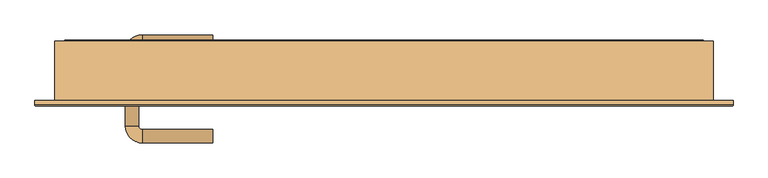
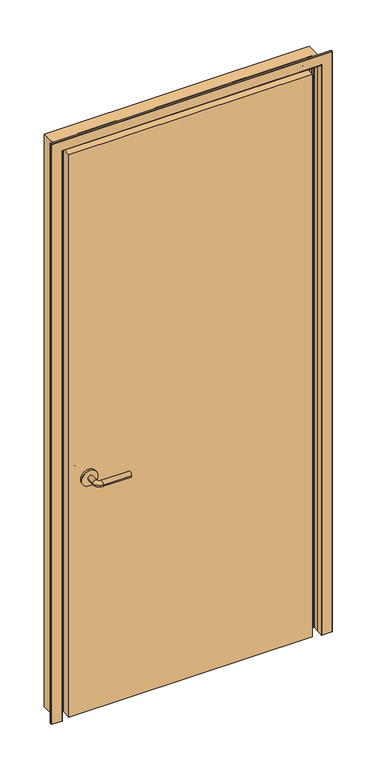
"""IFC4 building model written with IfcOpenShell, lengths in millimetres: door geometry, DRZWI DO ZESTAWIENIA : Dw_biura_90x220cm."""

from ifc_helpers import new_model, si_unit, point, frame, frame_2d, origin, origin_with_axes, place, context, project, spatial, polyline, circle_curve, ellipse_curve, trimmed, segment, composite_curve, outline, extrude, source, transform, mapped, element, save
from ifc_brep_helpers import plane_surface, cylinder_surface, revolved_surface, advanced_brep


def door_93136e83(model_context):
    return source(origin(), model_context, "Body", "SolidModel", [
        advanced_brep(
        [(-384.990625, -28.825, 914.4), (-364.990625, -28.825, 914.4), (-384.990625, 1.175, 914.4), (-364.990625, 1.175, 914.4), (-359.990625, 6.175, 914.4), (-359.990625, 26.175, 914.4), (-254.990625, 26.175, 914.4), (-254.990625, 6.175, 914.4)],
        [
            (0, 1, circle_curve(frame((-374.990625, -28.825, 914.4), z_axis=(0.0, -1.0, 0.0), x_axis=(1.0, 0.0, 0.0)), 10.0)),
            (1, 0, circle_curve(frame((-374.990625, -28.825, 914.4), z_axis=(0.0, -1.0, 0.0), x_axis=(1.0, 0.0, 0.0)), 10.0)),
            (0, 2),
            (2, 3, circle_curve(frame((-374.990625, 1.175, 914.4), z_axis=(0.0, -1.0, 0.0), x_axis=(1.0, 0.0, 0.0)), 10.0)),
            (3, 1),
            (3, 2, circle_curve(frame((-374.990625, 1.175, 914.4), z_axis=(0.0, -1.0, 0.0), x_axis=(1.0, 0.0, 0.0)), 10.0)),
            (4, 3, circle_curve(frame((-359.990625, 1.175, 914.4), z_axis=(0.0, 0.0, 1.0), x_axis=(-1.0, 0.0, 0.0)), 5.0)),
            (2, 5, circle_curve(frame((-359.990625, 1.175, 914.4), z_axis=(0.0, 0.0, -1.0), x_axis=(-1.0, 0.0, 0.0)), 25.0)),
            (5, 4, circle_curve(frame((-359.990625, 16.175, 914.4), z_axis=(-1.0, 0.0, 0.0), x_axis=(0.0, -1.0, 0.0)), 10.0)),
            (4, 5, circle_curve(frame((-359.990625, 16.175, 914.4), z_axis=(-1.0, 0.0, 0.0), x_axis=(0.0, -1.0, 0.0)), 10.0)),
            (6, 7, circle_curve(frame((-254.990625, 16.175, 914.4), z_axis=(1.0, 0.0, 0.0), x_axis=(0.0, -1.0, 0.0)), 10.0)),
            (7, 6, circle_curve(frame((-254.990625, 16.175, 914.4), z_axis=(1.0, 0.0, 0.0), x_axis=(0.0, -1.0, 0.0)), 10.0)),
            (5, 6),
            (7, 4),
        ],
        [
            plane_surface(frame((-374.990625, -28.825, 914.4), z_axis=(0.0, -1.0, 0.0), x_axis=(0.0, 0.0, 1.0))),
            cylinder_surface(frame((-374.990625, -28.825, 914.4), z_axis=(0.0, -1.0, 0.0), x_axis=(1.0, 0.0, 0.0)), 10.0),
            revolved_surface(trimmed(ellipse_curve(frame((-374.990625, 1.175, 914.4), z_axis=(0.0, -1.0, 0.0), x_axis=(1.0, 0.0, 0.0)), 10.0, 10.0), [point((-384.990625, 1.175, 914.4))], [point((-364.990625, 1.175, 914.4))], True, "CARTESIAN"), (-359.990625, 1.175, 914.4), (0.0, 0.0, -1.0)),
            revolved_surface(trimmed(ellipse_curve(frame((-374.990625, 1.175, 914.4), z_axis=(0.0, -1.0, 0.0), x_axis=(1.0, 0.0, 0.0)), 10.0, 10.0), [point((-364.990625, 1.175, 914.4))], [point((-384.990625, 1.175, 914.4))], True, "CARTESIAN"), (-359.990625, 1.175, 914.4), (0.0, 0.0, -1.0)),
            plane_surface(frame((-254.990625, 16.175, 914.4), z_axis=(1.0, 0.0, 0.0), x_axis=(0.0, 0.0, 1.0))),
            cylinder_surface(frame((-359.990625, 16.175, 914.4), z_axis=(-1.0, 0.0, 0.0), x_axis=(0.0, -1.0, 0.0)), 10.0),
        ],
        [
            (0, [[1, 2]]),
            (1, [[-1, 3, 4, 5]]),
            (1, [[-2, -5, 6, -3]]),
            (2, [[7, -4, 8, 9]]),
            (3, [[-8, -6, -7, 10]]),
            (4, [[11, 12]]),
            (5, [[-9, 13, -12, 14]]),
            (5, [[-10, -14, -11, -13]]),
        ],
    ),
        extrude(outline(composite_curve([segment(trimmed(circle_curve(frame_2d((914.4, -377.490625)), 30.0), [point((914.4, -407.490625))], [point((914.4, -347.490625))], False, "CARTESIAN"), True, "CONTINUOUS"), segment(trimmed(circle_curve(frame_2d((914.4, -377.490625)), 30.0), [point((914.4, -347.490625))], [point((914.4, -407.490625))], False, "CARTESIAN"), True, "CONTINUOUS")], self_intersect=False)), frame((0.0, -36.825, 0.0), z_axis=(0.0, 1.0, 0.0), x_axis=(0.0, 0.0, 1.0)), (0.0, 0.0, 1.0), 8.0),
        advanced_brep(
        [(-384.990625, -79.825, 914.4), (-364.990625, -79.825, 914.4), (-364.990625, -109.825, 914.4), (-384.990625, -109.825, 914.4), (-359.990625, -114.825, 914.4), (-359.990625, -134.825, 914.4), (-254.990625, -134.825, 914.4), (-254.990625, -114.825, 914.4)],
        [
            (0, 1, circle_curve(frame((-374.990625, -79.825, 914.4), z_axis=(0.0, 1.0, 0.0), x_axis=(1.0, 0.0, 0.0)), 10.0)),
            (1, 0, circle_curve(frame((-374.990625, -79.825, 914.4), z_axis=(0.0, 1.0, 0.0), x_axis=(1.0, 0.0, 0.0)), 10.0)),
            (1, 2),
            (2, 3, circle_curve(frame((-374.990625, -109.825, 914.4), z_axis=(0.0, 1.0, 0.0), x_axis=(1.0, 0.0, 0.0)), 10.0)),
            (3, 0),
            (3, 2, circle_curve(frame((-374.990625, -109.825, 914.4), z_axis=(0.0, 1.0, 0.0), x_axis=(1.0, 0.0, 0.0)), 10.0)),
            (4, 5, circle_curve(frame((-359.990625, -124.825, 914.4), z_axis=(-1.0, 0.0, 0.0), x_axis=(0.0, 1.0, 0.0)), 10.0)),
            (5, 3, circle_curve(frame((-359.990625, -109.825, 914.4), z_axis=(0.0, 0.0, -1.0), x_axis=(-1.0, 0.0, 0.0)), 25.0)),
            (2, 4, circle_curve(frame((-359.990625, -109.825, 914.4), z_axis=(0.0, 0.0, 1.0), x_axis=(-1.0, 0.0, 0.0)), 5.0)),
            (5, 4, circle_curve(frame((-359.990625, -124.825, 914.4), z_axis=(-1.0, 0.0, 0.0), x_axis=(0.0, 1.0, 0.0)), 10.0)),
            (6, 7, circle_curve(frame((-254.990625, -124.825, 914.4), z_axis=(1.0, 0.0, 0.0), x_axis=(0.0, 1.0, 0.0)), 10.0)),
            (7, 6, circle_curve(frame((-254.990625, -124.825, 914.4), z_axis=(1.0, 0.0, 0.0), x_axis=(0.0, 1.0, 0.0)), 10.0)),
            (4, 7),
            (6, 5),
        ],
        [
            plane_surface(frame((-374.990625, -79.825, 914.4), z_axis=(0.0, 1.0, 0.0), x_axis=(0.0, 0.0, 1.0))),
            cylinder_surface(frame((-374.990625, -79.825, 914.4), z_axis=(0.0, 1.0, 0.0), x_axis=(1.0, 0.0, 0.0)), 10.0),
            revolved_surface(trimmed(ellipse_curve(frame((-374.990625, -109.825, 914.4), z_axis=(0.0, -1.0, 0.0), x_axis=(1.0, 0.0, 0.0)), 10.0, 10.0), [point((-384.990625, -109.825, 914.4))], [point((-364.990625, -109.825, 914.4))], True, "CARTESIAN"), (-359.990625, -109.825, 914.4), (0.0, 0.0, -1.0)),
            revolved_surface(trimmed(ellipse_curve(frame((-374.990625, -109.825, 914.4), z_axis=(0.0, -1.0, 0.0), x_axis=(1.0, 0.0, 0.0)), 10.0, 10.0), [point((-364.990625, -109.825, 914.4))], [point((-384.990625, -109.825, 914.4))], True, "CARTESIAN"), (-359.990625, -109.825, 914.4), (0.0, 0.0, -1.0)),
            plane_surface(frame((-254.990625, -124.825, 914.4), z_axis=(1.0, 0.0, 0.0), x_axis=(0.0, 0.0, 1.0))),
            cylinder_surface(frame((-359.990625, -124.825, 914.4), z_axis=(-1.0, 0.0, 0.0), x_axis=(0.0, 1.0, 0.0)), 10.0),
        ],
        [
            (0, [[1, 2]]),
            (1, [[3, 4, 5, -2]]),
            (1, [[-5, 6, -3, -1]]),
            (2, [[7, 8, -4, 9]]),
            (3, [[10, -9, -6, -8]]),
            (4, [[11, 12]]),
            (5, [[13, -11, 14, -7]]),
            (5, [[-14, -12, -13, -10]]),
        ],
    ),
        extrude(outline(composite_curve([segment(trimmed(circle_curve(frame_2d((914.4, -377.490625)), 30.0), [point((914.4, -407.490625))], [point((914.4, -347.490625))], False, "CARTESIAN"), True, "CONTINUOUS"), segment(trimmed(circle_curve(frame_2d((914.4, -377.490625)), 30.0), [point((914.4, -347.490625))], [point((914.4, -407.490625))], False, "CARTESIAN"), True, "CONTINUOUS")], self_intersect=False)), frame((0.0, -79.825, 0.0), z_axis=(0.0, 1.0, 0.0), x_axis=(0.0, 0.0, 1.0)), (0.0, 0.0, 1.0), 8.0),
        extrude(outline(polyline([(450.0, -36.825), (450.0, -71.825), (-450.0, -71.825), (-450.0, -36.825), (450.0, -36.825)])), origin_with_axes(), (0.0, 0.0, 1.0), 2200.0),
        advanced_brep(
        [(451.75, 18.4249986, 0.0), (473.75, 18.4249986, 0.0), (475.5, 16.6749986, 0.0), (490.25, 16.6749986, 0.0), (490.25, -71.825, 0.0), (519.5, -71.825, 0.0), (519.5, -78.3250014, 0.0), (517.75, -80.0750014, 0.0), (480.75, -80.0750014, 0.0), (479.0, -78.3250014, 0.0), (479.0, -55.6240395, 0.0), (481.0, -52.1599379, 0.0), (481.0, -30.4900649, 0.0), (479.0, -27.0259633, 0.0), (479.0, -19.8250014, 0.0), (477.25, -18.0750014, 0.0), (469.75, -18.0750014, 0.0), (468.0, -16.3250014, 0.0), (468.0, -8.8250014, 0.0), (466.25, -7.0750014, 0.0), (453.25, -7.0750014, 0.0), (451.5, -8.8250014, 0.0), (451.5, -17.3250014, 0.0), (450.0, -17.3250014, 0.0), (450.0, 16.6749986, 0.0), (450.0, 16.6749986, 2200.0), (451.75, 18.4249986, 2201.75), (450.0, -17.3250014, 2200.0), (451.5, -17.3250014, 2201.5), (451.5, -8.8250014, 2201.5), (453.25, -7.0750014, 2203.25), (466.25, -7.0750014, 2216.25), (-466.25, -7.0750014, 2216.25), (-466.25, -7.0750014, 0.0), (-453.25, -7.0750014, 0.0), (-453.25, -7.0750014, 2203.25), (468.0, -8.8250014, 2218.0), (468.0, -16.3250014, 2218.0), (469.75, -18.0750014, 2219.75), (477.25, -18.0750014, 2227.25), (-477.25, -18.0750014, 2227.25), (-477.25, -18.0750014, 0.0), (-469.75, -18.0750014, 0.0), (-469.75, -18.0750014, 2219.75), (479.0, -19.8250014, 2229.0), (479.0, -27.0259633, 2229.0), (481.0, -30.4900649, 2231.0), (481.0, -52.1599379, 2231.0), (479.0, -55.6240395, 2229.0), (479.0, -78.3250014, 2229.0), (480.75, -80.0750014, 2230.75), (517.75, -80.0750014, 2267.75), (-517.75, -80.0750014, 2267.75), (-517.75, -80.0750014, 0.0), (-480.75, -80.0750014, 0.0), (-480.75, -80.0750014, 2230.75), (519.5, -78.3250014, 2269.5), (519.5, -71.825, 2269.5), (490.25, -71.825, 2240.25), (-490.25, -71.825, 2240.25), (-490.25, -71.825, 0.0), (-519.5, -71.825, 0.0), (-519.5, -71.825, 2269.5), (490.25, 16.6749986, 2240.25), (475.5, 16.6749986, 2225.5), (-475.5, 16.6749986, 2225.5), (-475.5, 16.6749986, 0.0), (-490.25, 16.6749986, 0.0), (-490.25, 16.6749986, 2240.25), (473.75, 18.4249986, 2223.75), (-451.75, 18.4249986, 2201.75), (-451.75, 18.4249986, 0.0), (-473.75, 18.4249986, 0.0), (-473.75, 18.4249986, 2223.75), (-451.5, -8.8250014, 0.0), (-451.5, -8.8250014, 2201.5), (-450.0, 16.6749986, 0.0), (-450.0, -17.3250014, 0.0), (-451.5, -17.3250014, 0.0), (-468.0, -8.8250014, 0.0), (-468.0, -16.3250014, 0.0), (-479.0, -19.8250014, 0.0), (-479.0, -27.0259633, 0.0), (-481.0, -30.4900649, 0.0), (-481.0, -52.1599379, 0.0), (-479.0, -55.6240395, 0.0), (-479.0, -78.3250014, 0.0), (-519.5, -78.3250014, 0.0), (-468.0, -8.8250014, 2218.0), (-468.0, -16.3250014, 2218.0), (-479.0, -19.8250014, 2229.0), (-479.0, -78.3250014, 2229.0), (-519.5, -78.3250014, 2269.5), (-450.0, 16.6749986, 2200.0), (-479.0, -55.6240395, 2229.0), (-481.0, -52.1599379, 2231.0), (-481.0, -30.4900649, 2231.0), (-479.0, -27.0259633, 2229.0), (-451.5, -17.3250014, 2201.5), (-450.0, -17.3250014, 2200.0)],
        [
            (0, 1),
            (1, 2, circle_curve(frame((473.75, 16.6749986, 0.0), z_axis=(0.0, 0.0, -1.0), x_axis=(1.0, 2.5985620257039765e-12, 0.0)), 1.75)),
            (2, 3),
            (3, 4),
            (4, 5),
            (5, 6),
            (6, 7, circle_curve(frame((517.75, -78.3250014, 0.0), z_axis=(0.0, 0.0, -1.0), x_axis=(0.0, -1.0, 0.0)), 1.75)),
            (7, 8),
            (8, 9, circle_curve(frame((480.75, -78.3250014, 0.0), z_axis=(0.0, 0.0, -1.0), x_axis=(-1.0, -1.2992838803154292e-12, 0.0)), 1.75)),
            (9, 10),
            (10, 11),
            (11, 12),
            (12, 13),
            (13, 14),
            (14, 15, circle_curve(frame((477.25, -19.8250014, 0.0), z_axis=(0.0, 0.0, 1.0), x_axis=(0.0, 1.0, 0.0)), 1.75)),
            (15, 16),
            (16, 17, circle_curve(frame((469.75, -16.3250014, 0.0), z_axis=(0.0, 0.0, -1.0), x_axis=(-1.0, -1.2992838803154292e-12, 0.0)), 1.75)),
            (17, 18),
            (18, 19, circle_curve(frame((466.25, -8.8250014, 0.0), z_axis=(0.0, 0.0, 1.0), x_axis=(0.0, 1.0, 0.0)), 1.75)),
            (19, 20),
            (20, 21, circle_curve(frame((453.25, -8.8250014, 0.0), z_axis=(0.0, 0.0, 1.0), x_axis=(-1.0, -1.2992838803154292e-12, 0.0)), 1.75)),
            (21, 22),
            (22, 23, circle_curve(frame((450.75, -17.3250014, 0.0), z_axis=(0.0, 0.0, -1.0), x_axis=(-1.0, -2.4253197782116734e-11, 0.0)), 0.75)),
            (23, 24),
            (24, 0, circle_curve(frame((451.75, 16.6749986, 0.0), z_axis=(0.0, 0.0, -1.0), x_axis=(-2.598562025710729e-12, 1.0, 0.0)), 1.75)),
            (24, 25),
            (25, 26, ellipse_curve(frame((451.75, 16.6749986, 2201.75), z_axis=(0.7071067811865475, 0.0, -0.7071067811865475), x_axis=(-0.7071067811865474, 0.0, -0.7071067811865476)), 2.4748737, 1.75)),
            (26, 0),
            (23, 27),
            (27, 25),
            (22, 28),
            (28, 27, ellipse_curve(frame((450.75, -17.3250014, 2200.75), z_axis=(0.7071067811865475, 0.0, -0.7071067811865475), x_axis=(-0.7071067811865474, 0.0, -0.7071067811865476)), 1.0606602, 0.75)),
            (21, 29),
            (29, 28),
            (20, 30),
            (30, 29, ellipse_curve(frame((453.25, -8.8250014, 2203.25), z_axis=(-0.7071067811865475, 0.0, 0.7071067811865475), x_axis=(0.7071067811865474, 0.0, 0.7071067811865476)), 2.4748737, 1.75)),
            (19, 31),
            (31, 32),
            (32, 33),
            (33, 34),
            (34, 35),
            (35, 30),
            (18, 36),
            (36, 31, ellipse_curve(frame((466.25, -8.8250014, 2216.25), z_axis=(-0.7071067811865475, 0.0, 0.7071067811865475), x_axis=(0.7071067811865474, 0.0, 0.7071067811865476)), 2.4748737, 1.75)),
            (17, 37),
            (37, 36),
            (16, 38),
            (38, 37, ellipse_curve(frame((469.75, -16.3250014, 2219.75), z_axis=(0.7071067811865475, 0.0, -0.7071067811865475), x_axis=(-0.7071067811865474, 0.0, -0.7071067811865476)), 2.4748737, 1.75)),
            (15, 39),
            (39, 40),
            (40, 41),
            (41, 42),
            (42, 43),
            (43, 38),
            (14, 44),
            (44, 39, ellipse_curve(frame((477.25, -19.8250014, 2227.25), z_axis=(-0.7071067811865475, 0.0, 0.7071067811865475), x_axis=(0.7071067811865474, 0.0, 0.7071067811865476)), 2.4748737, 1.75)),
            (13, 45),
            (45, 44),
            (12, 46),
            (46, 45),
            (11, 47),
            (47, 46),
            (10, 48),
            (48, 47),
            (9, 49),
            (49, 48),
            (8, 50),
            (50, 49, ellipse_curve(frame((480.75, -78.3250014, 2230.75), z_axis=(0.7071067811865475, 0.0, -0.7071067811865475), x_axis=(-0.7071067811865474, 0.0, -0.7071067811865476)), 2.4748737, 1.75)),
            (7, 51),
            (51, 52),
            (52, 53),
            (53, 54),
            (54, 55),
            (55, 50),
            (6, 56),
            (56, 51, ellipse_curve(frame((517.75, -78.3250014, 2267.75), z_axis=(0.7071067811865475, 0.0, -0.7071067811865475), x_axis=(-0.7071067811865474, 0.0, -0.7071067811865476)), 2.4748737, 1.75)),
            (5, 57),
            (57, 56),
            (4, 58),
            (58, 59),
            (59, 60),
            (60, 61),
            (61, 62),
            (62, 57),
            (3, 63),
            (63, 58),
            (2, 64),
            (64, 65),
            (65, 66),
            (66, 67),
            (67, 68),
            (68, 63),
            (1, 69),
            (69, 64, ellipse_curve(frame((473.75, 16.6749986, 2223.75), z_axis=(0.7071067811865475, 0.0, -0.7071067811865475), x_axis=(-0.7071067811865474, 0.0, -0.7071067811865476)), 2.4748737, 1.75)),
            (26, 70),
            (70, 71),
            (71, 72),
            (72, 73),
            (73, 69),
            (34, 74, circle_curve(frame((-453.25, -8.8250014, 0.0), z_axis=(0.0, 0.0, -1.0), x_axis=(1.0, -1.2992838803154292e-12, 0.0)), 1.75)),
            (74, 75),
            (75, 35, ellipse_curve(frame((-453.25, -8.8250014, 2203.25), z_axis=(0.7071067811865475, 0.0, 0.7071067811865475), x_axis=(0.7071067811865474, 0.0, -0.7071067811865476)), 2.4748737, 1.75)),
            (71, 76, circle_curve(frame((-451.75, 16.6749986, 0.0), z_axis=(0.0, 0.0, -1.0), x_axis=(2.598562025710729e-12, 1.0, 0.0)), 1.75)),
            (76, 77),
            (77, 78, circle_curve(frame((-450.75, -17.3250014, 0.0), z_axis=(0.0, 0.0, -1.0), x_axis=(1.0, -2.4253197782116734e-11, 0.0)), 0.75)),
            (78, 74),
            (33, 79, circle_curve(frame((-466.25, -8.8250014, 0.0), z_axis=(0.0, 0.0, 1.0), x_axis=(0.0, 1.0, 0.0)), 1.75)),
            (79, 80),
            (80, 42, circle_curve(frame((-469.75, -16.3250014, 0.0), z_axis=(0.0, 0.0, -1.0), x_axis=(1.0, -1.2992838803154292e-12, 0.0)), 1.75)),
            (41, 81, circle_curve(frame((-477.25, -19.8250014, 0.0), z_axis=(0.0, 0.0, 1.0), x_axis=(0.0, 1.0, 0.0)), 1.75)),
            (81, 82),
            (82, 83),
            (83, 84),
            (84, 85),
            (85, 86),
            (86, 54, circle_curve(frame((-480.75, -78.3250014, 0.0), z_axis=(0.0, 0.0, -1.0), x_axis=(1.0, -1.2992838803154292e-12, 0.0)), 1.75)),
            (53, 87, circle_curve(frame((-517.75, -78.3250014, 0.0), z_axis=(0.0, 0.0, -1.0), x_axis=(0.0, -1.0, 0.0)), 1.75)),
            (87, 61),
            (60, 67),
            (66, 72, circle_curve(frame((-473.75, 16.6749986, 0.0), z_axis=(0.0, 0.0, -1.0), x_axis=(-1.0, 2.5985620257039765e-12, 0.0)), 1.75)),
            (88, 79),
            (32, 88, ellipse_curve(frame((-466.25, -8.8250014, 2216.25), z_axis=(0.7071067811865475, 0.0, 0.7071067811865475), x_axis=(0.7071067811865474, 0.0, -0.7071067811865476)), 2.4748737, 1.75)),
            (80, 89),
            (89, 43, ellipse_curve(frame((-469.75, -16.3250014, 2219.75), z_axis=(-0.7071067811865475, 0.0, -0.7071067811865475), x_axis=(-0.7071067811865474, 0.0, 0.7071067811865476)), 2.4748737, 1.75)),
            (90, 81),
            (40, 90, ellipse_curve(frame((-477.25, -19.8250014, 2227.25), z_axis=(0.7071067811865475, 0.0, 0.7071067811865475), x_axis=(0.7071067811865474, 0.0, -0.7071067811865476)), 2.4748737, 1.75)),
            (86, 91),
            (91, 55, ellipse_curve(frame((-480.75, -78.3250014, 2230.75), z_axis=(-0.7071067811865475, 0.0, -0.7071067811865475), x_axis=(-0.7071067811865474, 0.0, 0.7071067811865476)), 2.4748737, 1.75)),
            (92, 87),
            (52, 92, ellipse_curve(frame((-517.75, -78.3250014, 2267.75), z_axis=(-0.7071067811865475, 0.0, -0.7071067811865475), x_axis=(-0.7071067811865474, 0.0, 0.7071067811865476)), 2.4748737, 1.75)),
            (92, 62),
            (59, 68),
            (65, 73, ellipse_curve(frame((-473.75, 16.6749986, 2223.75), z_axis=(-0.7071067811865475, 0.0, -0.7071067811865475), x_axis=(-0.7071067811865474, 0.0, 0.7071067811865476)), 2.4748737, 1.75)),
            (93, 76),
            (70, 93, ellipse_curve(frame((-451.75, 16.6749986, 2201.75), z_axis=(-0.7071067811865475, 0.0, -0.7071067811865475), x_axis=(-0.7071067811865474, 0.0, 0.7071067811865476)), 2.4748737, 1.75)),
            (85, 94),
            (94, 91),
            (84, 95),
            (95, 94),
            (83, 96),
            (96, 95),
            (82, 97),
            (97, 96),
            (90, 97),
            (88, 89),
            (78, 98),
            (98, 75),
            (77, 99),
            (99, 98, ellipse_curve(frame((-450.75, -17.3250014, 2200.75), z_axis=(-0.7071067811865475, 0.0, -0.7071067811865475), x_axis=(-0.7071067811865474, 0.0, 0.7071067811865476)), 1.0606602, 0.75)),
            (93, 99),
            (25, 93),
            (27, 99),
            (28, 98),
            (29, 75),
            (36, 88),
            (37, 89),
            (44, 90),
            (45, 97),
            (46, 96),
            (47, 95),
            (48, 94),
            (49, 91),
            (56, 92),
        ],
        [
            plane_surface(frame((450.0, -71.825, 0.0), z_axis=(0.0, 0.0, -1.0), x_axis=(0.0, 1.0, 0.0))),
            cylinder_surface(frame((451.75, 16.6749986, 0.0), z_axis=(0.0, 0.0, -1.0), x_axis=(-2.598562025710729e-12, 1.0, 0.0)), 1.75),
            plane_surface(frame((450.0, 16.6749986, 0.0), z_axis=(-1.0, 0.0, 0.0), x_axis=(0.0, 0.0, 1.0))),
            cylinder_surface(frame((450.75, -17.3250014, 0.0), z_axis=(0.0, 0.0, -1.0), x_axis=(-1.0, -2.4253197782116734e-11, 0.0)), 0.75),
            plane_surface(frame((451.5, -17.3250014, 0.0), z_axis=(1.0, 0.0, 0.0), x_axis=(0.0, 0.0, 1.0))),
            revolved_surface(polyline([(451.5, -8.825001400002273, 2204.99999997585), (451.5, -8.825001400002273, 0.0)]), (453.25, -8.8250014, 0.0), (0.0, 0.0, 1.0)),
            plane_surface(frame((453.25, -7.0750014, 0.0), z_axis=(0.0, -1.0, 0.0), x_axis=(0.0, 0.0, 1.0))),
            revolved_surface(polyline([(466.25, -7.0750014, 2218.0), (466.25, -7.0750014, 0.0)]), (466.25, -8.8250014, 0.0), (0.0, 0.0, 1.0)),
            plane_surface(frame((468.0, -8.8250014, 0.0), z_axis=(-1.0, 0.0, 0.0), x_axis=(0.0, 0.0, 1.0))),
            cylinder_surface(frame((469.75, -16.3250014, 0.0), z_axis=(0.0, 0.0, -1.0), x_axis=(-1.0, -1.2992838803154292e-12, 0.0)), 1.75),
            plane_surface(frame((469.75, -18.0750014, 0.0), z_axis=(0.0, -1.0, 0.0), x_axis=(0.0, 0.0, 1.0))),
            revolved_surface(polyline([(477.25, -18.0750014, 2229.0), (477.25, -18.0750014, 0.0)]), (477.25, -19.8250014, 0.0), (0.0, 0.0, 1.0)),
            plane_surface(frame((479.0, -19.8250014, 0.0), z_axis=(-1.0, 0.0, 0.0), x_axis=(0.0, 0.0, 1.0))),
            plane_surface(frame((479.0, -27.0259633, 0.0), z_axis=(-0.8660254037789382, -0.5000000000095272, 0.0), x_axis=(0.0, 0.0, 1.0))),
            plane_surface(frame((481.0, -30.4900649, 0.0), z_axis=(-1.0, 0.0, 0.0), x_axis=(0.0, 0.0, 1.0))),
            plane_surface(frame((481.0, -52.1599379, 0.0), z_axis=(-0.8660254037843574, 0.5000000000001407, 0.0), x_axis=(0.0, 0.0, 1.0))),
            plane_surface(frame((479.0, -55.6240395, 0.0), z_axis=(-1.0, 0.0, 0.0), x_axis=(0.0, 0.0, 1.0))),
            cylinder_surface(frame((480.75, -78.3250014, 0.0), z_axis=(0.0, 0.0, -1.0), x_axis=(-1.0, -1.2992838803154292e-12, 0.0)), 1.75),
            plane_surface(frame((480.75, -80.0750014, 0.0), z_axis=(0.0, -1.0, 0.0), x_axis=(0.0, 0.0, 1.0))),
            cylinder_surface(frame((517.75, -78.3250014, 0.0), z_axis=(0.0, 0.0, -1.0), x_axis=(0.0, -1.0, 0.0)), 1.75),
            plane_surface(frame((519.5, -78.3250014, 0.0), z_axis=(1.0, 0.0, 0.0), x_axis=(0.0, 0.0, 1.0))),
            plane_surface(frame((519.5, -71.825, 0.0), z_axis=(0.0, 1.0, 0.0), x_axis=(0.0, 0.0, 1.0))),
            plane_surface(frame((490.25, -71.825, 0.0), z_axis=(1.0, 0.0, 0.0), x_axis=(0.0, 0.0, 1.0))),
            plane_surface(frame((490.25, 16.6749986, 0.0), z_axis=(0.0, 1.0, 0.0), x_axis=(0.0, 0.0, 1.0))),
            cylinder_surface(frame((473.75, 16.6749986, 0.0), z_axis=(0.0, 0.0, -1.0), x_axis=(1.0, 2.5985620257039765e-12, 0.0)), 1.75),
            plane_surface(frame((473.75, 18.4249986, 0.0), z_axis=(0.0, 1.0, 0.0), x_axis=(0.0, 0.0, 1.0))),
            revolved_surface(polyline([(-451.5, -8.825001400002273, 0.0), (-451.5, -8.825001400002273, 2204.99999997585)]), (-453.25, -8.8250014, 2200.0), (0.0, 0.0, -1.0)),
            plane_surface(frame((-450.0, -71.825, 0.0), z_axis=(0.0, 0.0, -1.0), x_axis=(0.0, 1.0, 0.0))),
            revolved_surface(polyline([(-466.25, -7.0750014, 0.0), (-466.25, -7.0750014, 2218.0)]), (-466.25, -8.8250014, 2200.0), (0.0, 0.0, -1.0)),
            cylinder_surface(frame((-469.75, -16.3250014, 2200.0), z_axis=(0.0, 0.0, 1.0), x_axis=(1.0, -1.2992838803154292e-12, 0.0)), 1.75),
            revolved_surface(polyline([(-477.25, -18.0750014, 0.0), (-477.25, -18.0750014, 2229.0)]), (-477.25, -19.8250014, 2200.0), (0.0, 0.0, -1.0)),
            cylinder_surface(frame((-480.75, -78.3250014, 2200.0), z_axis=(0.0, 0.0, 1.0), x_axis=(1.0, -1.2992838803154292e-12, 0.0)), 1.75),
            cylinder_surface(frame((-517.75, -78.3250014, 2200.0), z_axis=(0.0, 0.0, 1.0), x_axis=(0.0, -1.0, 0.0)), 1.75),
            plane_surface(frame((-519.5, -78.3250014, 2269.5), z_axis=(-1.0, 0.0, 0.0), x_axis=(0.0, 0.0, -1.0))),
            plane_surface(frame((-490.25, -71.825, 2240.25), z_axis=(-1.0, 0.0, 0.0), x_axis=(0.0, 0.0, -1.0))),
            cylinder_surface(frame((-473.75, 16.6749986, 2200.0), z_axis=(0.0, 0.0, 1.0), x_axis=(-1.0, 2.5985620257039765e-12, 0.0)), 1.75),
            cylinder_surface(frame((-451.75, 16.6749986, 2200.0), z_axis=(0.0, 0.0, 1.0), x_axis=(2.598562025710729e-12, 1.0, 0.0)), 1.75),
            plane_surface(frame((-479.0, -55.6240395, 2229.0), z_axis=(1.0, 0.0, 0.0), x_axis=(0.0, 0.0, -1.0))),
            plane_surface(frame((-481.0, -52.1599379, 2231.0), z_axis=(0.8660254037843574, 0.5000000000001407, 0.0), x_axis=(0.0, 0.0, -1.0))),
            plane_surface(frame((-481.0, -30.4900649, 2231.0), z_axis=(1.0, 0.0, 0.0), x_axis=(0.0, 0.0, -1.0))),
            plane_surface(frame((-479.0, -27.0259633, 2229.0), z_axis=(0.8660254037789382, -0.5000000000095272, 0.0), x_axis=(0.0, 0.0, -1.0))),
            plane_surface(frame((-479.0, -19.8250014, 2229.0), z_axis=(1.0, 0.0, 0.0), x_axis=(0.0, 0.0, -1.0))),
            plane_surface(frame((-468.0, -8.8250014, 2218.0), z_axis=(1.0, 0.0, 0.0), x_axis=(0.0, 0.0, -1.0))),
            plane_surface(frame((-451.5, -17.3250014, 2201.5), z_axis=(-1.0, 0.0, 0.0), x_axis=(0.0, 0.0, -1.0))),
            cylinder_surface(frame((-450.75, -17.3250014, 2200.0), z_axis=(0.0, 0.0, 1.0), x_axis=(1.0, -2.4253197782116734e-11, 0.0)), 0.75),
            plane_surface(frame((-450.0, 16.6749986, 2200.0), z_axis=(1.0, 0.0, 0.0), x_axis=(0.0, 0.0, -1.0))),
            cylinder_surface(frame((450.0, 16.6749986, 2201.75), z_axis=(1.0, 0.0, 0.0), x_axis=(0.0, 1.0, -2.598562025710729e-12)), 1.75),
            plane_surface(frame((450.0, 16.6749986, 2200.0), z_axis=(0.0, 0.0, -1.0), x_axis=(-1.0, 0.0, 0.0))),
            cylinder_surface(frame((450.0, -17.3250014, 2200.75), z_axis=(1.0, 0.0, 0.0), x_axis=(0.0, -2.4253197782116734e-11, -1.0)), 0.75),
            plane_surface(frame((451.5, -17.3250014, 2201.5), z_axis=(0.0, 0.0, 1.0), x_axis=(-1.0, 0.0, 0.0))),
            revolved_surface(polyline([(-454.9999999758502, -8.825001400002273, 2201.5), (454.99999997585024, -8.825001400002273, 2201.5)]), (450.0, -8.8250014, 2203.25), (-1.0, 0.0, 0.0)),
            revolved_surface(polyline([(-468.0, -7.0750014, 2216.25), (468.0, -7.0750014, 2216.25)]), (450.0, -8.8250014, 2216.25), (-1.0, 0.0, 0.0)),
            plane_surface(frame((468.0, -8.8250014, 2218.0), z_axis=(0.0, 0.0, -1.0), x_axis=(-1.0, 0.0, 0.0))),
            cylinder_surface(frame((450.0, -16.3250014, 2219.75), z_axis=(1.0, 0.0, 0.0), x_axis=(0.0, -1.2992838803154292e-12, -1.0)), 1.75),
            revolved_surface(polyline([(-479.0, -18.0750014, 2227.25), (479.0, -18.0750014, 2227.25)]), (450.0, -19.8250014, 2227.25), (-1.0, 0.0, 0.0)),
            plane_surface(frame((479.0, -19.8250014, 2229.0), z_axis=(0.0, 0.0, -1.0), x_axis=(-1.0, 0.0, 0.0))),
            plane_surface(frame((479.0, -27.0259633, 2229.0), z_axis=(0.0, -0.5000000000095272, -0.8660254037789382), x_axis=(-1.0, 0.0, 0.0))),
            plane_surface(frame((481.0, -30.4900649, 2231.0), z_axis=(0.0, 0.0, -1.0), x_axis=(-1.0, 0.0, 0.0))),
            plane_surface(frame((481.0, -52.1599379, 2231.0), z_axis=(0.0, 0.5000000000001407, -0.8660254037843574), x_axis=(-1.0, 0.0, 0.0))),
            plane_surface(frame((479.0, -55.6240395, 2229.0), z_axis=(0.0, 0.0, -1.0), x_axis=(-1.0, 0.0, 0.0))),
            cylinder_surface(frame((450.0, -78.3250014, 2230.75), z_axis=(1.0, 0.0, 0.0), x_axis=(0.0, -1.2992838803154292e-12, -1.0)), 1.75),
            cylinder_surface(frame((450.0, -78.3250014, 2267.75), z_axis=(1.0, 0.0, 0.0), x_axis=(0.0, -1.0, 0.0)), 1.75),
            plane_surface(frame((519.5, -78.3250014, 2269.5), z_axis=(0.0, 0.0, 1.0), x_axis=(-1.0, 0.0, 0.0))),
            plane_surface(frame((490.25, -71.825, 2240.25), z_axis=(0.0, 0.0, 1.0), x_axis=(-1.0, 0.0, 0.0))),
            cylinder_surface(frame((450.0, 16.6749986, 2223.75), z_axis=(1.0, 0.0, 0.0), x_axis=(0.0, 2.5985620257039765e-12, 1.0)), 1.75),
        ],
        [
            (0, [[1, 2, 3, 4, 5, 6, 7, 8, 9, 10, 11, 12, 13, 14, 15, 16, 17, 18, 19, 20, 21, 22, 23, 24, 25]]),
            (1, [[26, 27, 28, -25]]),
            (2, [[29, 30, -26, -24]]),
            (3, [[31, 32, -29, -23]]),
            (4, [[33, 34, -31, -22]]),
            (5, [[35, 36, -33, -21]]),
            (6, [[37, 38, 39, 40, 41, 42, -35, -20]]),
            (7, [[43, 44, -37, -19]]),
            (8, [[45, 46, -43, -18]]),
            (9, [[47, 48, -45, -17]]),
            (10, [[49, 50, 51, 52, 53, 54, -47, -16]]),
            (11, [[55, 56, -49, -15]]),
            (12, [[57, 58, -55, -14]]),
            (13, [[59, 60, -57, -13]]),
            (14, [[61, 62, -59, -12]]),
            (15, [[63, 64, -61, -11]]),
            (16, [[65, 66, -63, -10]]),
            (17, [[67, 68, -65, -9]]),
            (18, [[69, 70, 71, 72, 73, 74, -67, -8]]),
            (19, [[75, 76, -69, -7]]),
            (20, [[77, 78, -75, -6]]),
            (21, [[79, 80, 81, 82, 83, 84, -77, -5]]),
            (22, [[85, 86, -79, -4]]),
            (23, [[87, 88, 89, 90, 91, 92, -85, -3]]),
            (24, [[93, 94, -87, -2]]),
            (25, [[-28, 95, 96, 97, 98, 99, -93, -1]]),
            (26, [[-41, 100, 101, 102]]),
            (27, [[103, 104, 105, 106, -100, -40, 107, 108, 109, -52, 110, 111, 112, 113, 114, 115, 116, -72, 117, 118, -82, 119, -90, 120, -97]]),
            (28, [[121, -107, -39, 122]]),
            (29, [[-53, -109, 123, 124]]),
            (30, [[125, -110, -51, 126]]),
            (31, [[-73, -116, 127, 128]]),
            (32, [[129, -117, -71, 130]]),
            (33, [[-83, -118, -129, 131]]),
            (34, [[-91, -119, -81, 132]]),
            (35, [[-98, -120, -89, 133]]),
            (36, [[134, -103, -96, 135]]),
            (37, [[-127, -115, 136, 137]]),
            (38, [[-136, -114, 138, 139]]),
            (39, [[-138, -113, 140, 141]]),
            (40, [[-140, -112, 142, 143]]),
            (41, [[-142, -111, -125, 144]]),
            (42, [[-123, -108, -121, 145]]),
            (43, [[-101, -106, 146, 147]]),
            (44, [[-146, -105, 148, 149]]),
            (45, [[-148, -104, -134, 150]]),
            (46, [[151, -135, -95, -27]]),
            (47, [[152, -150, -151, -30]]),
            (48, [[153, -149, -152, -32]]),
            (49, [[154, -147, -153, -34]]),
            (50, [[-42, -102, -154, -36]]),
            (51, [[155, -122, -38, -44]]),
            (52, [[156, -145, -155, -46]]),
            (53, [[-54, -124, -156, -48]]),
            (54, [[157, -126, -50, -56]]),
            (55, [[158, -144, -157, -58]]),
            (56, [[159, -143, -158, -60]]),
            (57, [[160, -141, -159, -62]]),
            (58, [[161, -139, -160, -64]]),
            (59, [[162, -137, -161, -66]]),
            (60, [[-74, -128, -162, -68]]),
            (61, [[163, -130, -70, -76]]),
            (62, [[-84, -131, -163, -78]]),
            (63, [[-92, -132, -80, -86]]),
            (64, [[-99, -133, -88, -94]]),
        ],
    ),
    ])


if __name__ == "__main__":
    model = new_model("IFC4")
    model_context = context("Model", 3, world=origin())
    ifc_project = project(units=[si_unit("LENGTHUNIT", "METRE", prefix="MILLI")], contexts=[model_context])
    site = spatial("IfcSite", under=ifc_project)
    building = spatial("IfcBuilding", under=site)
    placement = place(None, origin())
    door_shape = door_93136e83(model_context)
    element("IfcDoor", 1, ObjectType="DRZWI DO ZESTAWIENIA : Dw_biura_90x220cm", at=placement, inside=building, context=model_context, shape_type="MappedRepresentation", body=[
        mapped(door_shape, transform((0.0, 0.0, 0.0), x_axis=(1.0, 0.0, 0.0), y_axis=(0.0, 1.0, 0.0), z_axis=(0.0, 0.0, 1.0))),
    ])
    save(model, "model.ifc")
